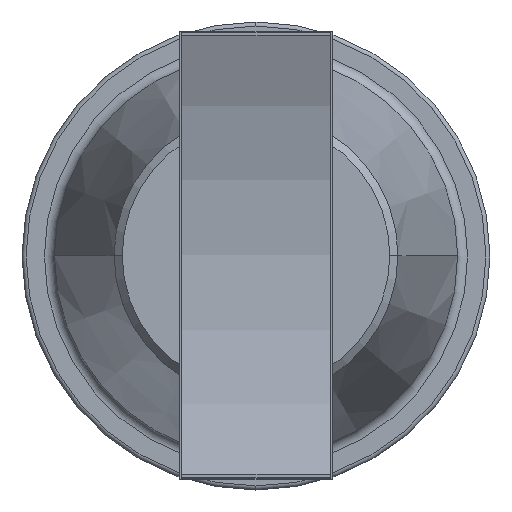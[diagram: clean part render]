
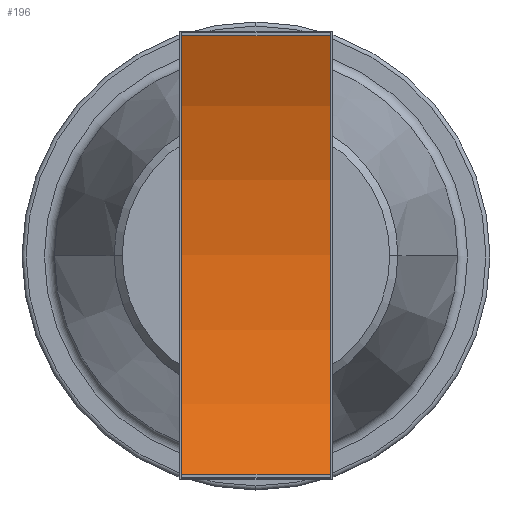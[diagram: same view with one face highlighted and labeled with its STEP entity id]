
A CAD part, top view. The second image highlights one B-rep face of the part: STEP entity #196.
In plain terms, the highlighted cylindrical face has radius 254 mm (diameter 508 mm), a partial arc.
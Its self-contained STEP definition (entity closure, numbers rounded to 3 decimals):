
#196=ADVANCED_FACE('',(#475),#476,.F.);
#475=FACE_OUTER_BOUND('',#876,.T.);
#476=CYLINDRICAL_SURFACE('',#877,254.);
#876=EDGE_LOOP('',(#1251,#1252,#1253,#1254));
#877=AXIS2_PLACEMENT_3D('',#1255,#1256,#1257);
#1251=ORIENTED_EDGE('',*,*,#2282,.T.);
#1252=ORIENTED_EDGE('',*,*,#2283,.F.);
#1253=ORIENTED_EDGE('',*,*,#2284,.T.);
#1254=ORIENTED_EDGE('',*,*,#2279,.T.);
#1255=CARTESIAN_POINT('',(493.889,566.979,239.5));
#1256=DIRECTION('',(-1.0,0.,0.));
#1257=DIRECTION('',(0.,-1.0,0.));
#2279=EDGE_CURVE('',#2689,#2687,#2690,.T.);
#2282=EDGE_CURVE('',#2687,#2693,#2694,.T.);
#2283=EDGE_CURVE('',#2695,#2693,#2696,.T.);
#2284=EDGE_CURVE('',#2695,#2689,#2697,.T.);
#2687=VERTEX_POINT('',#3278);
#2689=VERTEX_POINT('',#3281);
#2690=LINE('',#3282,#3283);
#2693=VERTEX_POINT('',#3287);
#2694=CIRCLE('',#3288,254.);
#2695=VERTEX_POINT('',#3289);
#2696=LINE('',#3290,#3291);
#2697=CIRCLE('',#3292,254.);
#3278=CARTESIAN_POINT('',(420.889,674.757,9.5));
#3281=CARTESIAN_POINT('',(493.889,674.757,9.5));
#3282=CARTESIAN_POINT('',(493.889,674.757,9.5));
#3283=VECTOR('',#4575,1.0);
#3287=CARTESIAN_POINT('',(420.889,459.202,9.5));
#3288=AXIS2_PLACEMENT_3D('',#4577,#4578,#4579);
#3289=CARTESIAN_POINT('',(493.889,459.202,9.5));
#3290=CARTESIAN_POINT('',(493.889,459.202,9.5));
#3291=VECTOR('',#4580,1.0);
#3292=AXIS2_PLACEMENT_3D('',#4581,#4582,#4583);
#4575=DIRECTION('',(-1.0,0.,0.));
#4577=CARTESIAN_POINT('',(420.889,566.979,239.5));
#4578=DIRECTION('',(-1.0,0.,0.));
#4579=DIRECTION('',(0.,-1.0,0.));
#4580=DIRECTION('',(-1.0,0.,0.));
#4581=CARTESIAN_POINT('',(493.889,566.979,239.5));
#4582=DIRECTION('',(1.0,0.,0.));
#4583=DIRECTION('',(0.,-1.0,0.));
